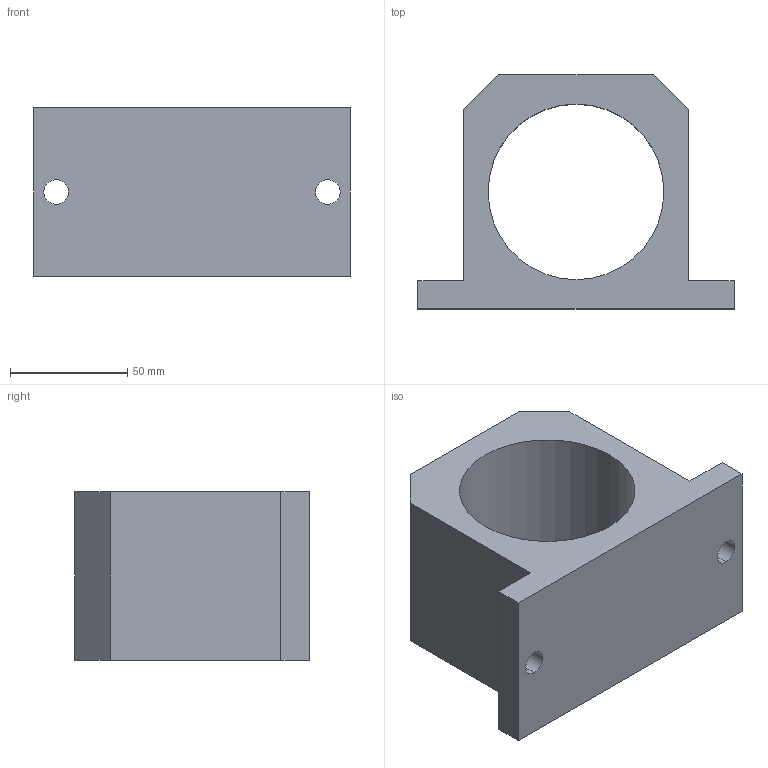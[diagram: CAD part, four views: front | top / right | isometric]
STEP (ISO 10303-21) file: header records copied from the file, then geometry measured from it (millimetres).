
FILE_DESCRIPTION (( 'STEP AP214' ), '1' );
FILE_NAME ('KALGS-50.step', '2020-03-04T13:15:42', ( '' ), ( '' ), 'SwSTEP 2.0', 'SolidWorks 2019', '' );
FILE_SCHEMA (( 'AUTOMOTIVE_DESIGN' ));
Length unit declared in the file: millimetre
Products named in the file (1): KALGS-50
Bounding box: 135 x 100 x 72 mm (x, y, z)
Volume: 388531.6 mm3; surface area: 60834.9 mm2
Topology: 1 solids, 1 shells, 18 faces, 48 edges, 32 vertices
Faces by surface type: plane 12, cylinder 6
Entity records: 610 total; most frequent: CARTESIAN_POINT 99, DIRECTION 98, ORIENTED_EDGE 96, EDGE_CURVE 48, LINE 36, VECTOR 36, VERTEX_POINT 32, AXIS2_PLACEMENT_3D 31
